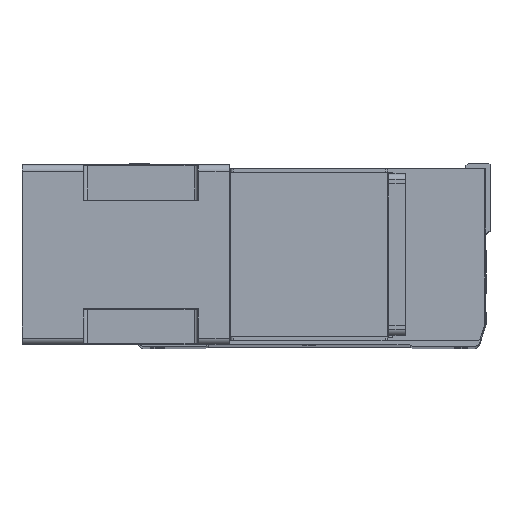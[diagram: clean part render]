
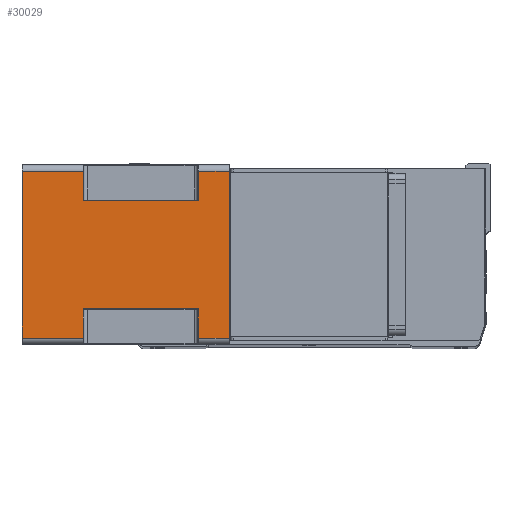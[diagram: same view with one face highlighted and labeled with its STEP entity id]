
A CAD part, top view. The second image highlights one B-rep face of the part: STEP entity #30029.
In plain terms, the highlighted planar face has unit normal (0, 0, 1) as drawn and (-1, 0, 0) by its records, which use the part's own axes.
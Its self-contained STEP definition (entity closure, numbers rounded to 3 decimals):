
#233 = LINE ( 'NONE', #10471, #19965 ) ;
#673 = EDGE_CURVE ( 'NONE', #41786, #2674, #233, .T. ) ;
#1566 = VERTEX_POINT ( 'NONE', #16921 ) ;
#2100 = LINE ( 'NONE', #9879, #36338 ) ;
#2270 = LINE ( 'NONE', #4241, #36515 ) ;
#2375 = PLANE ( 'NONE',  #17760 ) ;
#2411 = DIRECTION ( 'NONE',  ( 0., 1., 0. ) ) ;
#2674 = VERTEX_POINT ( 'NONE', #8337 ) ;
#4098 = EDGE_CURVE ( 'NONE', #15424, #21598, #12941, .T. ) ;
#4163 = VERTEX_POINT ( 'NONE', #37813 ) ;
#4241 = CARTESIAN_POINT ( 'NONE',  ( -71., -66., -115.5 ) ) ;
#5641 = LINE ( 'NONE', #15902, #17128 ) ;
#5962 = VERTEX_POINT ( 'NONE', #6971 ) ;
#6971 = CARTESIAN_POINT ( 'NONE',  ( -71., 66., -115.5 ) ) ;
#7744 = DIRECTION ( 'NONE',  ( 0., 1., 0. ) ) ;
#8337 = CARTESIAN_POINT ( 'NONE',  ( -71., -66., -164. ) ) ;
#9325 = CARTESIAN_POINT ( 'NONE',  ( -71., -66., -164. ) ) ;
#9476 = CARTESIAN_POINT ( 'NONE',  ( -71., 66., 0. ) ) ;
#9879 = CARTESIAN_POINT ( 'NONE',  ( -71., 66., -164. ) ) ;
#10440 = DIRECTION ( 'NONE',  ( 0., -1., 0. ) ) ;
#10471 = CARTESIAN_POINT ( 'NONE',  ( -71., -66., -164. ) ) ;
#10862 = DIRECTION ( 'NONE',  ( 0., 0., 1. ) ) ;
#10863 = ORIENTED_EDGE ( 'NONE', *, *, #673, .T. ) ;
#10900 = EDGE_CURVE ( 'NONE', #39117, #1566, #22948, .T. ) ;
#11712 = ORIENTED_EDGE ( 'NONE', *, *, #10900, .F. ) ;
#11726 = EDGE_CURVE ( 'NONE', #12211, #35397, #15112, .T. ) ;
#11922 = ORIENTED_EDGE ( 'NONE', *, *, #37063, .F. ) ;
#12012 = ORIENTED_EDGE ( 'NONE', *, *, #15209, .T. ) ;
#12203 = DIRECTION ( 'NONE',  ( 0., -1., 0. ) ) ;
#12211 = VERTEX_POINT ( 'NONE', #38038 ) ;
#12941 = LINE ( 'NONE', #40857, #38356 ) ;
#13292 = FACE_OUTER_BOUND ( 'NONE', #34963, .T. ) ;
#15112 = LINE ( 'NONE', #41690, #40541 ) ;
#15209 = EDGE_CURVE ( 'NONE', #4163, #1566, #30019, .T. ) ;
#15424 = VERTEX_POINT ( 'NONE', #28110 ) ;
#15553 = VECTOR ( 'NONE', #12203, 1000. ) ;
#15902 = CARTESIAN_POINT ( 'NONE',  ( -71., 66., -164. ) ) ;
#16443 = DIRECTION ( 'NONE',  ( 0., 0., 1. ) ) ;
#16560 = DIRECTION ( 'NONE',  ( 0., 0., 1. ) ) ;
#16626 = VERTEX_POINT ( 'NONE', #9476 ) ;
#16921 = CARTESIAN_POINT ( 'NONE',  ( -71., 43., -24.5 ) ) ;
#17128 = VECTOR ( 'NONE', #39081, 1000. ) ;
#17760 = AXIS2_PLACEMENT_3D ( 'NONE', #35706, #39337, #22358 ) ;
#18348 = CARTESIAN_POINT ( 'NONE',  ( -71., -66., -24.5 ) ) ;
#18539 = ORIENTED_EDGE ( 'NONE', *, *, #28335, .T. ) ;
#19246 = CARTESIAN_POINT ( 'NONE',  ( -71., 43., -115.5 ) ) ;
#19965 = VECTOR ( 'NONE', #33655, 1000. ) ;
#20059 = CARTESIAN_POINT ( 'NONE',  ( -71., 43., -164. ) ) ;
#20473 = CARTESIAN_POINT ( 'NONE',  ( -71., 43., -24.5 ) ) ;
#21598 = VERTEX_POINT ( 'NONE', #35931 ) ;
#22007 = VERTEX_POINT ( 'NONE', #38954 ) ;
#22358 = DIRECTION ( 'NONE',  ( 0., -1., 0. ) ) ;
#22420 = VECTOR ( 'NONE', #32617, 1000. ) ;
#22903 = LINE ( 'NONE', #9325, #22420 ) ;
#22948 = LINE ( 'NONE', #20059, #40635 ) ;
#24307 = VECTOR ( 'NONE', #10440, 1000. ) ;
#24420 = LINE ( 'NONE', #18348, #33742 ) ;
#28110 = CARTESIAN_POINT ( 'NONE',  ( -71., -66., -24.5 ) ) ;
#28335 = EDGE_CURVE ( 'NONE', #22007, #15424, #24420, .T. ) ;
#28915 = EDGE_CURVE ( 'NONE', #16626, #21598, #33151, .T. ) ;
#29529 = CARTESIAN_POINT ( 'NONE',  ( -71., -43., -164. ) ) ;
#30019 = LINE ( 'NONE', #20473, #24307 ) ;
#30029 = ADVANCED_FACE ( 'NONE', ( #13292 ), #2375, .T. ) ;
#30443 = ORIENTED_EDGE ( 'NONE', *, *, #11726, .T. ) ;
#30589 = EDGE_CURVE ( 'NONE', #39117, #5962, #2270, .T. ) ;
#32617 = DIRECTION ( 'NONE',  ( 0., 0., 1. ) ) ;
#32639 = EDGE_CURVE ( 'NONE', #41786, #5962, #5641, .T. ) ;
#32829 = VECTOR ( 'NONE', #36222, 1000. ) ;
#33151 = LINE ( 'NONE', #39008, #15553 ) ;
#33655 = DIRECTION ( 'NONE',  ( 0., -1., 0. ) ) ;
#33742 = VECTOR ( 'NONE', #41495, 1000. ) ;
#33793 = ORIENTED_EDGE ( 'NONE', *, *, #39727, .T. ) ;
#34929 = LINE ( 'NONE', #29529, #32829 ) ;
#34963 = EDGE_LOOP ( 'NONE', ( #33793, #30443, #40270, #18539, #36644, #41666, #11922, #12012, #11712, #35534, #41522, #10863 ) ) ;
#35397 = VERTEX_POINT ( 'NONE', #37048 ) ;
#35534 = ORIENTED_EDGE ( 'NONE', *, *, #30589, .T. ) ;
#35706 = CARTESIAN_POINT ( 'NONE',  ( -71., -66., -164. ) ) ;
#35931 = CARTESIAN_POINT ( 'NONE',  ( -71., -66., 0. ) ) ;
#36222 = DIRECTION ( 'NONE',  ( 0., 0., -1. ) ) ;
#36271 = EDGE_CURVE ( 'NONE', #22007, #35397, #34929, .T. ) ;
#36338 = VECTOR ( 'NONE', #16560, 1000. ) ;
#36515 = VECTOR ( 'NONE', #7744, 1000. ) ;
#36644 = ORIENTED_EDGE ( 'NONE', *, *, #4098, .T. ) ;
#37048 = CARTESIAN_POINT ( 'NONE',  ( -71., -43., -115.5 ) ) ;
#37063 = EDGE_CURVE ( 'NONE', #4163, #16626, #2100, .T. ) ;
#37813 = CARTESIAN_POINT ( 'NONE',  ( -71., 66., -24.5 ) ) ;
#38038 = CARTESIAN_POINT ( 'NONE',  ( -71., -66., -115.5 ) ) ;
#38356 = VECTOR ( 'NONE', #10862, 1000. ) ;
#38954 = CARTESIAN_POINT ( 'NONE',  ( -71., -43., -24.5 ) ) ;
#39008 = CARTESIAN_POINT ( 'NONE',  ( -71., -66., 0. ) ) ;
#39081 = DIRECTION ( 'NONE',  ( 0., 0., 1. ) ) ;
#39117 = VERTEX_POINT ( 'NONE', #19246 ) ;
#39337 = DIRECTION ( 'NONE',  ( -1., 0., 0. ) ) ;
#39727 = EDGE_CURVE ( 'NONE', #2674, #12211, #22903, .T. ) ;
#40270 = ORIENTED_EDGE ( 'NONE', *, *, #36271, .F. ) ;
#40541 = VECTOR ( 'NONE', #2411, 1000. ) ;
#40635 = VECTOR ( 'NONE', #16443, 1000. ) ;
#40857 = CARTESIAN_POINT ( 'NONE',  ( -71., -66., -164. ) ) ;
#41495 = DIRECTION ( 'NONE',  ( 0., -1., 0. ) ) ;
#41499 = CARTESIAN_POINT ( 'NONE',  ( -71., 66., -164. ) ) ;
#41522 = ORIENTED_EDGE ( 'NONE', *, *, #32639, .F. ) ;
#41666 = ORIENTED_EDGE ( 'NONE', *, *, #28915, .F. ) ;
#41690 = CARTESIAN_POINT ( 'NONE',  ( -71., -43., -115.5 ) ) ;
#41786 = VERTEX_POINT ( 'NONE', #41499 ) ;
